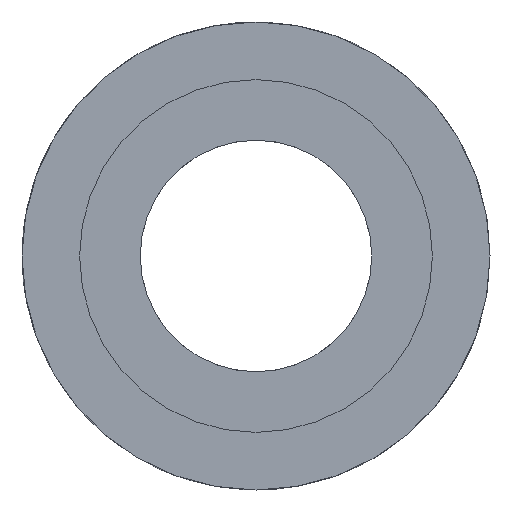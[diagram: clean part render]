
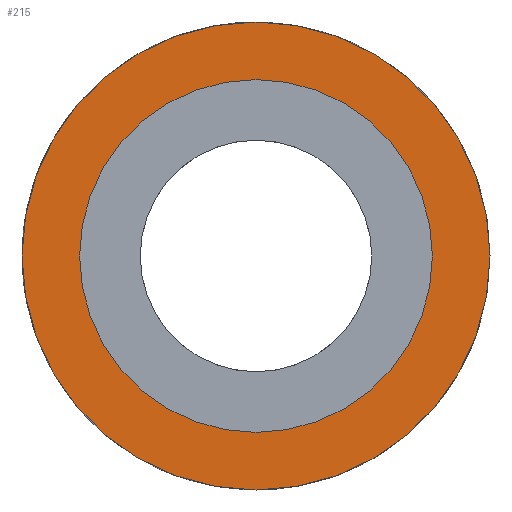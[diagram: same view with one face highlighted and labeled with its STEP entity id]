
A CAD part, left-side view. The second image highlights one B-rep face of the part: STEP entity #215.
In plain terms, the highlighted planar face has unit normal (-1, 0, 0).
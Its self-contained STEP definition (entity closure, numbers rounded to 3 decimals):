
#15=FACE_BOUND($,#52,.T.);
#37=FACE_OUTER_BOUND($,#51,.T.);
#51=EDGE_LOOP($,(#181));
#52=EDGE_LOOP($,(#182));
#66=CIRCLE($,#239,0.9);
#68=CIRCLE($,#242,1.194);
#111=VERTEX_POINT($,#422);
#113=VERTEX_POINT($,#427);
#138=EDGE_CURVE($,#111,#111,#66,.T.);
#140=EDGE_CURVE($,#113,#113,#68,.T.);
#181=ORIENTED_EDGE($,*,*,#140,.F.);
#182=ORIENTED_EDGE($,*,*,#138,.T.);
#203=PLANE($,#241);
#215=ADVANCED_FACE($,(#37,#15),#203,.T.);
#239=AXIS2_PLACEMENT_3D($,#423,#295,#296);
#241=AXIS2_PLACEMENT_3D($,#426,#299,#300);
#242=AXIS2_PLACEMENT_3D($,#428,#301,#302);
#295=DIRECTION('center_axis',(1.,0.,0.));
#296=DIRECTION('ref_axis',(0.,1.,0.));
#299=DIRECTION('center_axis',(-1.,0.,0.));
#300=DIRECTION('ref_axis',(0.,0.,1.));
#301=DIRECTION('center_axis',(1.,0.,0.));
#302=DIRECTION('ref_axis',(0.,1.,0.));
#422=CARTESIAN_POINT('',(3.96,0.9,0.));
#423=CARTESIAN_POINT('Origin',(3.96,0.,0.));
#426=CARTESIAN_POINT('Origin',(3.96,1.047,0.));
#427=CARTESIAN_POINT('',(3.96,1.194,0.));
#428=CARTESIAN_POINT('Origin',(3.96,0.,0.));
